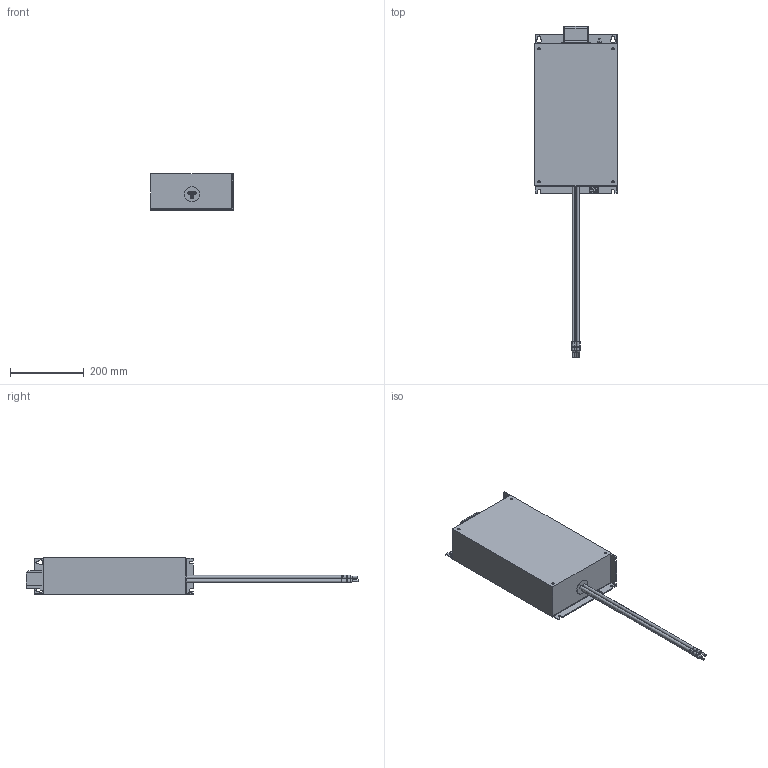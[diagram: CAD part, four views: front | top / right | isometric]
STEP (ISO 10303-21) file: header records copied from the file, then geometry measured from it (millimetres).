
FILE_DESCRIPTION (( 'STEP AP214' ), '1' );
FILE_NAME ('00E6X00-0022.STEP', '2023-07-11T11:45:51', ( '' ), ( '' ), 'SwSTEP 2.0', 'SolidWorks 2022', '' );
FILE_SCHEMA (( 'AUTOMOTIVE_DESIGN' ));
Length unit declared in the file: millimetre
Products named in the file (1): 00E6X00-0022
Bounding box: 224 x 897.94 x 100 mm (x, y, z)
Volume: 8896203.4 mm3; surface area: 373713.4 mm2
Topology: 1 solids, 1 shells, 318 faces, 812 edges, 532 vertices
Faces by surface type: plane 188, cylinder 88, bspline 36, cone 6
Entity records: 13650 total; most frequent: CARTESIAN_POINT 5883, ORIENTED_EDGE 1624, DIRECTION 1416, EDGE_CURVE 812, VERTEX_POINT 532, VECTOR 486, LINE 486, AXIS2_PLACEMENT_3D 465
